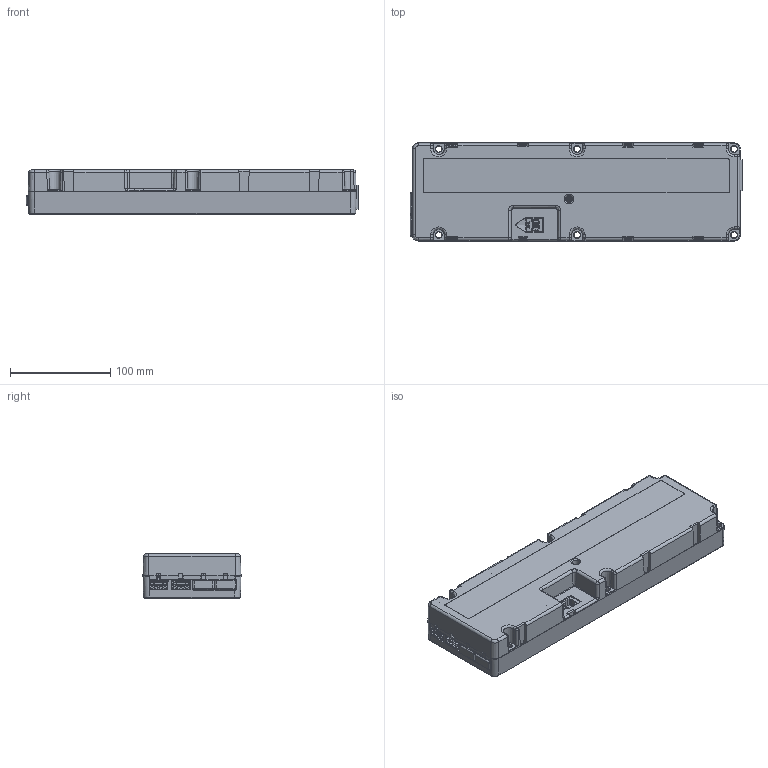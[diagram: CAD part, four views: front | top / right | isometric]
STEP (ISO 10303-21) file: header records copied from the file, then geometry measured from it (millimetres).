
FILE_DESCRIPTION(/* description */ ('Unknown'),/* implementation_level */ '2;1');
FILE_NAME(/* name */ '124.008_00',/* time_stamp */ '2025-09-25T16:50:26+02:00',/* author */ ('Unknown'),/* organization */ ('Unknown'),/* preprocessor_version */ 'ST-DEVELOPER v20',/* originating_system */ 'Solid Edge',/* authorisation */ 'Unknown');
FILE_SCHEMA (('AUTOMOTIVE_DESIGN {1 0 10303 214 3 1 1}'));
Products named in the file (2): 124.008; 124.00286
Assembly tree (1 placements, depth 2):
  124.008
    124.00286
Bounding box: 331.5 x 97.94 x 44 mm (x, y, z)
Volume: 250672.7 mm3; surface area: 231888.9 mm2
Topology: 30 solids, 30 shells, 5497 faces, 15103 edges, 9737 vertices
Faces by surface type: plane 3794, cylinder 1010, torus 279, bspline 223, cone 140, sphere 51
Full cylindrical faces by diameter (mm): 1.8 x2, 2 x7, 2.6 x1, 3.15 x2, 8 x4
Entity records: 187630 total; most frequent: CARTESIAN_POINT 49815, ORIENTED_EDGE 30130, DIRECTION 25290, EDGE_CURVE 15065, LINE 11320, VECTOR 11320, VERTEX_POINT 9737, AXIS2_PLACEMENT_3D 6985
